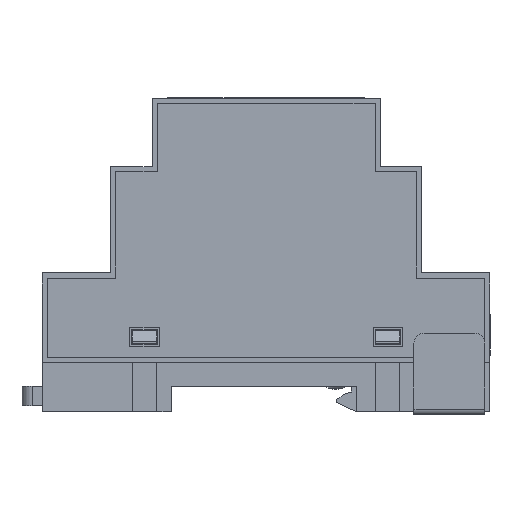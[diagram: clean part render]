
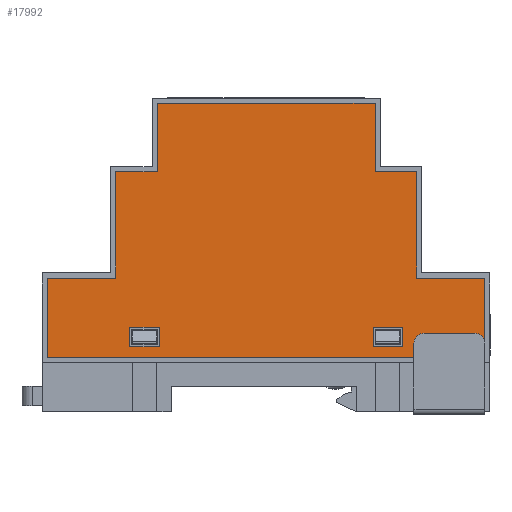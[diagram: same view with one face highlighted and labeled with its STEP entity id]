
A CAD part, left-side view. The second image highlights one B-rep face of the part: STEP entity #17992.
In plain terms, the highlighted planar face has unit normal (-1, 0, 0) as drawn and (0, -1, 0) by its records, which use the part's own axes.
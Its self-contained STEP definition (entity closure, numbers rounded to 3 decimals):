
#757=FACE_BOUND('',#2320,.T.);
#758=FACE_BOUND('',#2321,.T.);
#1354=FACE_OUTER_BOUND('',#2319,.T.);
#2319=EDGE_LOOP('',(#14046,#14047,#14048,#14049,#14050,#14051,#14052,#14053,
#14054,#14055,#14056,#14057));
#2320=EDGE_LOOP('',(#14058,#14059,#14060,#14061));
#2321=EDGE_LOOP('',(#14062,#14063,#14064,#14065));
#4082=LINE('',#27706,#6172);
#4085=LINE('',#27711,#6175);
#4087=LINE('',#27715,#6177);
#4089=LINE('',#27719,#6179);
#4091=LINE('',#27723,#6181);
#4093=LINE('',#27727,#6183);
#4095=LINE('',#27732,#6185);
#4098=LINE('',#27737,#6188);
#4100=LINE('',#27742,#6190);
#4103=LINE('',#27747,#6193);
#4105=LINE('',#27751,#6195);
#4107=LINE('',#27755,#6197);
#4109=LINE('',#27759,#6199);
#4111=LINE('',#27763,#6201);
#4113=LINE('',#27767,#6203);
#4114=LINE('',#27769,#6204);
#4115=LINE('',#27772,#6205);
#4116=LINE('',#27773,#6206);
#4117=LINE('',#27775,#6207);
#4118=LINE('',#27776,#6208);
#6172=VECTOR('',#22624,10.);
#6175=VECTOR('',#22629,10.);
#6177=VECTOR('',#22633,10.);
#6179=VECTOR('',#22637,10.);
#6181=VECTOR('',#22641,10.);
#6183=VECTOR('',#22645,10.);
#6185=VECTOR('',#22649,10.);
#6188=VECTOR('',#22654,10.);
#6190=VECTOR('',#22658,10.);
#6193=VECTOR('',#22663,10.);
#6195=VECTOR('',#22667,10.);
#6197=VECTOR('',#22671,10.);
#6199=VECTOR('',#22675,10.);
#6201=VECTOR('',#22679,10.);
#6203=VECTOR('',#22683,10.);
#6204=VECTOR('',#22686,10.);
#6205=VECTOR('',#22689,10.);
#6206=VECTOR('',#22690,10.);
#6207=VECTOR('',#22691,10.);
#6208=VECTOR('',#22692,10.);
#7963=VERTEX_POINT('',#27703);
#7964=VERTEX_POINT('',#27705);
#7965=VERTEX_POINT('',#27709);
#7966=VERTEX_POINT('',#27713);
#7967=VERTEX_POINT('',#27717);
#7968=VERTEX_POINT('',#27721);
#7969=VERTEX_POINT('',#27725);
#7970=VERTEX_POINT('',#27729);
#7971=VERTEX_POINT('',#27731);
#7972=VERTEX_POINT('',#27735);
#7973=VERTEX_POINT('',#27739);
#7974=VERTEX_POINT('',#27741);
#7975=VERTEX_POINT('',#27745);
#7976=VERTEX_POINT('',#27749);
#7977=VERTEX_POINT('',#27753);
#7978=VERTEX_POINT('',#27757);
#7979=VERTEX_POINT('',#27761);
#7980=VERTEX_POINT('',#27765);
#7981=VERTEX_POINT('',#27771);
#7982=VERTEX_POINT('',#27774);
#10075=EDGE_CURVE('',#7964,#7963,#4082,.T.);
#10078=EDGE_CURVE('',#7965,#7963,#4085,.F.);
#10080=EDGE_CURVE('',#7966,#7965,#4087,.F.);
#10082=EDGE_CURVE('',#7967,#7966,#4089,.F.);
#10084=EDGE_CURVE('',#7968,#7967,#4091,.F.);
#10086=EDGE_CURVE('',#7969,#7968,#4093,.F.);
#10088=EDGE_CURVE('',#7971,#7970,#4095,.F.);
#10091=EDGE_CURVE('',#7970,#7972,#4098,.F.);
#10093=EDGE_CURVE('',#7974,#7973,#4100,.F.);
#10096=EDGE_CURVE('',#7973,#7975,#4103,.F.);
#10098=EDGE_CURVE('',#7969,#7976,#4105,.T.);
#10100=EDGE_CURVE('',#7977,#7976,#4107,.F.);
#10102=EDGE_CURVE('',#7978,#7977,#4109,.F.);
#10104=EDGE_CURVE('',#7979,#7978,#4111,.F.);
#10106=EDGE_CURVE('',#7980,#7979,#4113,.F.);
#10107=EDGE_CURVE('',#7964,#7980,#4114,.F.);
#10108=EDGE_CURVE('',#7972,#7981,#4115,.F.);
#10109=EDGE_CURVE('',#7981,#7971,#4116,.F.);
#10110=EDGE_CURVE('',#7975,#7982,#4117,.F.);
#10111=EDGE_CURVE('',#7982,#7974,#4118,.F.);
#14046=ORIENTED_EDGE('',*,*,#10075,.T.);
#14047=ORIENTED_EDGE('',*,*,#10078,.F.);
#14048=ORIENTED_EDGE('',*,*,#10080,.F.);
#14049=ORIENTED_EDGE('',*,*,#10082,.F.);
#14050=ORIENTED_EDGE('',*,*,#10084,.F.);
#14051=ORIENTED_EDGE('',*,*,#10086,.F.);
#14052=ORIENTED_EDGE('',*,*,#10098,.T.);
#14053=ORIENTED_EDGE('',*,*,#10100,.F.);
#14054=ORIENTED_EDGE('',*,*,#10102,.F.);
#14055=ORIENTED_EDGE('',*,*,#10104,.F.);
#14056=ORIENTED_EDGE('',*,*,#10106,.F.);
#14057=ORIENTED_EDGE('',*,*,#10107,.F.);
#14058=ORIENTED_EDGE('',*,*,#10108,.T.);
#14059=ORIENTED_EDGE('',*,*,#10109,.T.);
#14060=ORIENTED_EDGE('',*,*,#10088,.T.);
#14061=ORIENTED_EDGE('',*,*,#10091,.T.);
#14062=ORIENTED_EDGE('',*,*,#10110,.T.);
#14063=ORIENTED_EDGE('',*,*,#10111,.T.);
#14064=ORIENTED_EDGE('',*,*,#10093,.T.);
#14065=ORIENTED_EDGE('',*,*,#10096,.T.);
#16487=PLANE('',#19364);
#17992=ADVANCED_FACE('',(#1354,#757,#758),#16487,.F.);
#19364=AXIS2_PLACEMENT_3D('',#27770,#22687,#22688);
#22624=DIRECTION('',(1.,0.,0.));
#22629=DIRECTION('',(0.,0.,1.));
#22633=DIRECTION('',(-1.,0.,0.));
#22637=DIRECTION('',(0.,0.,1.));
#22641=DIRECTION('',(-1.,0.,0.));
#22645=DIRECTION('',(0.,0.,1.));
#22649=DIRECTION('',(1.,0.,0.));
#22654=DIRECTION('',(0.,0.,-1.));
#22658=DIRECTION('',(1.,0.,0.));
#22663=DIRECTION('',(0.,0.,-1.));
#22667=DIRECTION('',(-1.,0.,0.));
#22671=DIRECTION('',(0.,0.,-1.));
#22675=DIRECTION('',(-1.,0.,0.));
#22679=DIRECTION('',(0.,0.,-1.));
#22683=DIRECTION('',(-1.,0.,0.));
#22686=DIRECTION('',(0.,0.,-1.));
#22687=DIRECTION('center_axis',(0.,1.,0.));
#22688=DIRECTION('ref_axis',(-1.,0.,0.));
#22689=DIRECTION('',(-1.,0.,0.));
#22690=DIRECTION('',(0.,0.,1.));
#22691=DIRECTION('',(-1.,0.,0.));
#22692=DIRECTION('',(0.,0.,1.));
#27703=CARTESIAN_POINT('',(43.175,-26.5,1.));
#27705=CARTESIAN_POINT('',(-43.175,-26.5,1.));
#27706=CARTESIAN_POINT('',(-21.088,-26.5,1.));
#27709=CARTESIAN_POINT('',(43.175,-26.5,16.6));
#27711=CARTESIAN_POINT('',(43.175,-26.5,8.8));
#27713=CARTESIAN_POINT('',(29.7,-26.5,16.6));
#27715=CARTESIAN_POINT('',(15.35,-26.5,16.6));
#27717=CARTESIAN_POINT('',(29.7,-26.5,37.6));
#27719=CARTESIAN_POINT('',(29.7,-26.5,19.3));
#27721=CARTESIAN_POINT('',(21.5,-26.5,37.6));
#27723=CARTESIAN_POINT('',(11.25,-26.5,37.6));
#27725=CARTESIAN_POINT('',(21.5,-26.5,51.1));
#27727=CARTESIAN_POINT('',(21.5,-26.5,26.05));
#27729=CARTESIAN_POINT('',(21.1,-26.5,3.));
#27731=CARTESIAN_POINT('',(26.9,-26.5,3.));
#27732=CARTESIAN_POINT('',(13.25,-26.5,3.));
#27735=CARTESIAN_POINT('',(21.1,-26.5,6.9));
#27737=CARTESIAN_POINT('',(21.1,-26.5,1.7));
#27739=CARTESIAN_POINT('',(-26.9,-26.5,3.));
#27741=CARTESIAN_POINT('',(-21.1,-26.5,3.));
#27742=CARTESIAN_POINT('',(-10.75,-26.5,3.));
#27745=CARTESIAN_POINT('',(-26.9,-26.5,6.9));
#27747=CARTESIAN_POINT('',(-26.9,-26.5,1.7));
#27749=CARTESIAN_POINT('',(-21.5,-26.5,51.1));
#27751=CARTESIAN_POINT('',(-11.25,-26.5,51.1));
#27753=CARTESIAN_POINT('',(-21.5,-26.5,37.6));
#27755=CARTESIAN_POINT('',(-21.5,-26.5,19.3));
#27757=CARTESIAN_POINT('',(-29.7,-26.5,37.6));
#27759=CARTESIAN_POINT('',(-15.35,-26.5,37.6));
#27761=CARTESIAN_POINT('',(-29.7,-26.5,16.6));
#27763=CARTESIAN_POINT('',(-29.7,-26.5,8.8));
#27765=CARTESIAN_POINT('',(-43.175,-26.5,16.6));
#27767=CARTESIAN_POINT('',(-22.088,-26.5,16.6));
#27769=CARTESIAN_POINT('',(-43.175,-26.5,0.));
#27770=CARTESIAN_POINT('Origin',(0.,-26.5,0.));
#27771=CARTESIAN_POINT('',(26.9,-26.5,6.9));
#27772=CARTESIAN_POINT('',(10.75,-26.5,6.9));
#27773=CARTESIAN_POINT('',(26.9,-26.5,3.25));
#27774=CARTESIAN_POINT('',(-21.1,-26.5,6.9));
#27775=CARTESIAN_POINT('',(-13.25,-26.5,6.9));
#27776=CARTESIAN_POINT('',(-21.1,-26.5,3.25));
